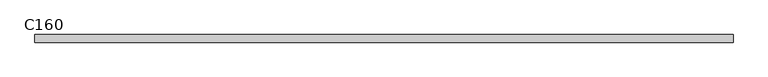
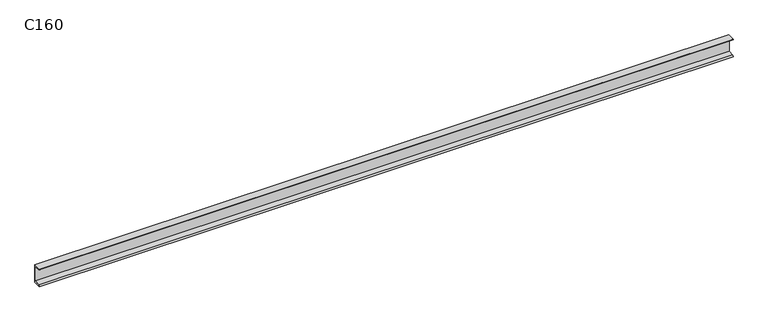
"""IFC4 building model written with IfcOpenShell, lengths in millimetres: beam geometry, RPLN C - Ceowniki normalne : C160."""

import ifcopenshell
import ifcopenshell.guid

model = None  # the IFC model being written
_history = None  # IfcOwnerHistory: only IFC2X3 demands one
_inside = {}  # id of a spatial element -> (the spatial element, [elements in it])
_under = {}  # id of a project, library or spatial element -> (it, [spatial elements below it])
_declared = {}  # id of a project -> (the project, [libraries it declares])
_typed = {}  # id of a type object -> (the type object, [elements of that type])
_made_of = {}  # id of a material, layer set ... -> (it, [elements and type objects made of it])


def new_model(schema):
    """Start an empty IFC model of exactly this schema.

    Asked for "IFC4X3", IfcOpenShell would pick the latest addendum, in which some entities
    have other attributes; the version numbers below select the first issue.
    IFC2X3 requires an IfcOwnerHistory on every rooted entity: one is made here for all.
    """
    global model, _history
    if schema == "IFC4X3":
        model = ifcopenshell.file(schema_version=(4, 3, 0, 0))
    else:
        model = ifcopenshell.file(schema=schema)
    _inside.clear()
    _under.clear()
    _declared.clear()
    _typed.clear()
    _made_of.clear()
    _history = None
    if model.schema == "IFC2X3":
        org = make("IfcOrganization", Name="unknown")
        user = make(
            "IfcPersonAndOrganization",
            ThePerson=make("IfcPerson", FamilyName="unknown"),
            TheOrganization=org,
        )
        app = make(
            "IfcApplication",
            ApplicationDeveloper=org,
            Version="unknown",
            ApplicationFullName="unknown",
            ApplicationIdentifier="unknown",
        )
        _history = make(
            "IfcOwnerHistory",
            OwningUser=user,
            OwningApplication=app,
            ChangeAction="ADDED",
            CreationDate=0,
        )
    return model


def make(cls, **values):
    """One entity of the class cls with the attributes given. An attribute that is None is left unset."""
    return model.create_entity(
        cls, **{name: value for name, value in values.items() if value is not None}
    )


def rooted(cls, **values):
    """An entity with a GlobalId (a new one), such as an element, a storey or a relation."""
    return make(cls, GlobalId=ifcopenshell.guid.new(), OwnerHistory=_history, **values)


def si_unit(unit_type, name, prefix=None):
    """IfcSIUnit, for example si_unit("LENGTHUNIT", "METRE", prefix="MILLI")."""
    return make("IfcSIUnit", UnitType=unit_type, Prefix=prefix, Name=name)


def assignment(units):
    """IfcUnitAssignment: the units of a project."""
    return None if units is None else make("IfcUnitAssignment", Units=units)


def point(xyz):
    """IfcCartesianPoint."""
    return None if xyz is None else make("IfcCartesianPoint", Coordinates=xyz)


def direction(xyz):
    """IfcDirection."""
    return None if xyz is None else make("IfcDirection", DirectionRatios=xyz)


def frame(location, z_axis=None, x_axis=None):
    """IfcAxis2Placement3D, a coordinate frame: its origin and axes. An axis left out is left unset."""
    return make(
        "IfcAxis2Placement3D",
        Location=point(location),
        Axis=direction(z_axis),
        RefDirection=direction(x_axis),
    )


def frame_2d(location, x_axis=None):
    """IfcAxis2Placement2D, a coordinate frame in the plane: its origin and x axis."""
    return make(
        "IfcAxis2Placement2D", Location=point(location), RefDirection=direction(x_axis)
    )


def origin():
    """The frame at (0, 0, 0) with its axes left unset."""
    return frame((0.0, 0.0, 0.0))


def place(relative_to, where):
    """IfcLocalPlacement: puts the frame where relative to a parent placement (None: the world)."""
    return make(
        "IfcLocalPlacement", PlacementRelTo=relative_to, RelativePlacement=where
    )


def context(
    kind, dimensions, precision=None, world=None, true_north=None, identifier=None
):
    """IfcGeometricRepresentationContext, for example the 3D "Model" context."""
    return make(
        "IfcGeometricRepresentationContext",
        ContextIdentifier=identifier,
        ContextType=kind,
        CoordinateSpaceDimension=dimensions,
        Precision=precision,
        WorldCoordinateSystem=world,
        TrueNorth=true_north,
    )


def project(units=None, contexts=None):
    """IfcProject with its units and contexts."""
    return rooted(
        "IfcProject",
        Name="project",
        RepresentationContexts=contexts,
        UnitsInContext=assignment(units),
    )


def spatial(cls, under=None, at=None, **own):
    """A site, building, storey or space (cls), placed at a placement, below another one or the project."""
    s = rooted(cls, ObjectPlacement=at, **own)
    if under is not None:
        _under.setdefault(under.id(), (under, []))[1].append(s)
    return s


def polyline(points):
    """IfcPolyline through the points."""
    return make("IfcPolyline", Points=[point(p) for p in points])


def circle_curve(where, radius):
    """IfcCircle in the frame where."""
    return make("IfcCircle", Position=where, Radius=radius)


def trimmed(basis, trim1, trim2, sense, master):
    """IfcTrimmedCurve: the piece of a basis curve between two trims."""
    return make(
        "IfcTrimmedCurve",
        BasisCurve=basis,
        Trim1=trim1,
        Trim2=trim2,
        SenseAgreement=sense,
        MasterRepresentation=master,
    )


def segment(curve, same_sense, transition):
    """IfcCompositeCurveSegment."""
    return make(
        "IfcCompositeCurveSegment",
        Transition=transition,
        SameSense=same_sense,
        ParentCurve=curve,
    )


def composite_curve(segments, self_intersect=None):
    """IfcCompositeCurve: segments joined end to end."""
    return make("IfcCompositeCurve", Segments=segments, SelfIntersect=self_intersect)


def outline(outer, holes=None, kind="AREA"):
    """IfcArbitraryClosedProfileDef: a profile drawn as a closed curve; with holes, ...WithVoids."""
    if holes is None:
        return make("IfcArbitraryClosedProfileDef", ProfileType=kind, OuterCurve=outer)
    return make(
        "IfcArbitraryProfileDefWithVoids",
        ProfileType=kind,
        OuterCurve=outer,
        InnerCurves=holes,
    )


def extrude(swept, where, along, depth):
    """IfcExtrudedAreaSolid: the profile swept, set in the frame where, extruded along a direction by depth."""
    return make(
        "IfcExtrudedAreaSolid",
        SweptArea=swept,
        Position=where,
        ExtrudedDirection=direction(along),
        Depth=depth,
    )


def shape(context_of_items, identifier, shape_type, items):
    """IfcShapeRepresentation: the items that make up one representation, for example the "Body"."""
    return make(
        "IfcShapeRepresentation",
        ContextOfItems=context_of_items,
        RepresentationIdentifier=identifier,
        RepresentationType=shape_type,
        Items=items,
    )


def source(mapping_origin, context_of_items, identifier, shape_type, items):
    """IfcRepresentationMap: a shape defined once, which mapped items show again and again."""
    return make(
        "IfcRepresentationMap",
        MappingOrigin=mapping_origin,
        MappedRepresentation=shape(context_of_items, identifier, shape_type, items),
    )


def transform(
    local_origin,
    x_axis=None,
    y_axis=None,
    z_axis=None,
    scale=None,
    scale2=None,
    scale3=None,
    uniform=True,
):
    """IfcCartesianTransformationOperator3D, or its non-uniform kind. x_axis, y_axis, z_axis: its Axis1, 2, 3."""
    if uniform:
        return make(
            "IfcCartesianTransformationOperator3D",
            Axis1=direction(x_axis),
            Axis2=direction(y_axis),
            LocalOrigin=point(local_origin),
            Scale=scale,
            Axis3=direction(z_axis),
        )
    return make(
        "IfcCartesianTransformationOperator3DnonUniform",
        Axis1=direction(x_axis),
        Axis2=direction(y_axis),
        LocalOrigin=point(local_origin),
        Scale=scale,
        Axis3=direction(z_axis),
        Scale2=scale2,
        Scale3=scale3,
    )


def mapped(mapping_source, mapping_target):
    """IfcMappedItem: shows the shape of a source again, moved by a transform."""
    return make(
        "IfcMappedItem", MappingSource=mapping_source, MappingTarget=mapping_target
    )


def made_of(thing, what):
    """Note that an element or type object is made of a material, layer set ...; save() writes the relation."""
    if what is not None:
        _made_of.setdefault(what.id(), (what, []))[1].append(thing)
    return thing


def element(
    cls,
    number,
    at=None,
    inside=None,
    cuts=None,
    type_object=None,
    material=None,
    context=None,
    identifier="Body",
    shape_type=None,
    held_by="IfcProductDefinitionShape",
    body=None,
    shapes=None,
    **own,
):
    """One element of the class cls, such as IfcWall. Its Tag is "e" and its number.

    at: its placement. inside: the storey or other place that contains it. cuts: it is an
    opening in that element (IfcRelVoidsElement). A single representation is given by context,
    identifier, shape_type and body (its items); several are given by shapes. held_by: the class
    of the entity that holds the representations. save() writes the other relations.
    """
    e = rooted(cls, Tag="e%d" % number, ObjectPlacement=at, **own)
    if body is not None:
        shapes = [shape(context, identifier, shape_type, body)]
    if shapes is not None:
        e.Representation = make(held_by, Representations=shapes)
    if inside is not None:
        _inside.setdefault(inside.id(), (inside, []))[1].append(e)
    if cuts is not None:
        rooted(
            "IfcRelVoidsElement", RelatingBuildingElement=cuts, RelatedOpeningElement=e
        )
    if type_object is not None:
        _typed.setdefault(type_object.id(), (type_object, []))[1].append(e)
    return made_of(e, material)


def aggregate(whole, parts):
    """IfcRelAggregates: a whole, such as a stair, and the parts it consists of."""
    return rooted("IfcRelAggregates", RelatingObject=whole, RelatedObjects=parts)


def save(model, path):
    """Write the relations noted so far, then the file.

    IfcRelAggregates (storeys below a building ...), IfcRelContainedInSpatialStructure (elements
    in a storey), IfcRelDefinesByType, IfcRelAssociatesMaterial and IfcRelDeclares: one each for
    every whole, place, type object, material and project.
    """
    for whole, parts in _under.values():
        aggregate(whole, parts)
    for where, things in _inside.values():
        rooted(
            "IfcRelContainedInSpatialStructure",
            RelatedElements=things,
            RelatingStructure=where,
        )
    for kind, things in _typed.values():
        rooted("IfcRelDefinesByType", RelatedObjects=things, RelatingType=kind)
    for what, things in _made_of.values():
        rooted("IfcRelAssociatesMaterial", RelatedObjects=things, RelatingMaterial=what)
    for by, libraries in _declared.values():
        rooted("IfcRelDeclares", RelatingContext=by, RelatedDefinitions=libraries)
    model.write(path)


def c160_118c6426(model_context):
    return source(origin(), model_context, "Body", "SweptSolid", [
        extrude(outline(composite_curve([segment(polyline([(18.4, 80.0), (18.4, -80.0), (-46.6, -80.0)]), True, "CONTINUOUS"), segment(trimmed(circle_curve(frame_2d((-36.1, -80.0)), 10.5), [point((-46.6, -80.0))], [point((-36.1, -69.5))], False, "CARTESIAN"), True, "CONTINUOUS"), segment(polyline([(-36.1, -69.5), (10.9, -62.0559313), (10.9, 62.0559313), (-36.1, 69.5)]), True, "CONTINUOUS"), segment(trimmed(circle_curve(frame_2d((-36.1, 80.0)), 10.5), [point((-36.1, 69.5))], [point((-46.6, 80.0))], False, "CARTESIAN"), True, "CONTINUOUS"), segment(polyline([(-46.6, 80.0), (18.4, 80.0)]), True, "CONTINUOUS")], self_intersect=False)), frame((-3000.0, 0.0, 0.0), z_axis=(1.0, 0.0, 0.0), x_axis=(0.0, 1.0, 0.0)), (0.0, 0.0, 1.0), 5965.9042199),
    ])


if __name__ == "__main__":
    model = new_model("IFC4")
    model_context = context("Model", 3, world=origin())
    ifc_project = project(units=[si_unit("LENGTHUNIT", "METRE", prefix="MILLI")], contexts=[model_context])
    site = spatial("IfcSite", under=ifc_project)
    building = spatial("IfcBuilding", under=site)
    placement = place(None, origin())
    c160_shape = c160_118c6426(model_context)
    element("IfcBeam", 1, ObjectType="RPLN C - Ceowniki normalne : C160", at=placement, inside=building, context=model_context, shape_type="MappedRepresentation", body=[
        mapped(c160_shape, transform((0.0, 0.0, 0.0), x_axis=(1.0, 0.0, 0.0), y_axis=(0.0, 1.0, 0.0), z_axis=(0.0, 0.0, 1.0))),
    ])
    save(model, "model.ifc")
